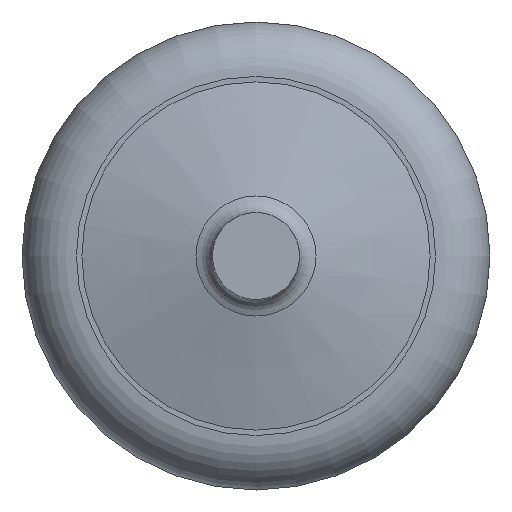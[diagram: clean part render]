
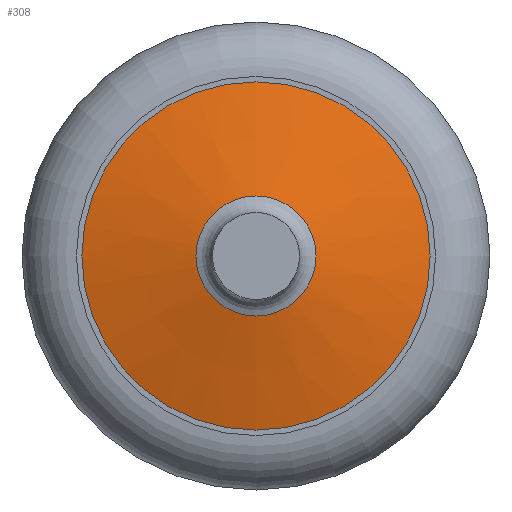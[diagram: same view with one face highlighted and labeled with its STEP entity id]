
A CAD part, left-side view. The second image highlights one B-rep face of the part: STEP entity #308.
In plain terms, the highlighted conical face has half-angle 75.964 degrees and reference radius 1 mm.
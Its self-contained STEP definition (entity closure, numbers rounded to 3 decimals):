
#14=CONICAL_SURFACE('',#349,1.,75.964);
#38=FACE_BOUND('',#96,.T.);
#63=FACE_OUTER_BOUND('',#95,.T.);
#95=EDGE_LOOP('',(#225));
#96=EDGE_LOOP('',(#226));
#142=CIRCLE('',#348,0.551);
#143=CIRCLE('',#350,1.6);
#168=VERTEX_POINT('',#515);
#169=VERTEX_POINT('',#518);
#194=EDGE_CURVE('',#168,#168,#142,.T.);
#195=EDGE_CURVE('',#169,#169,#143,.T.);
#225=ORIENTED_EDGE('',*,*,#195,.T.);
#226=ORIENTED_EDGE('',*,*,#194,.F.);
#308=ADVANCED_FACE('',(#63,#38),#14,.T.);
#348=AXIS2_PLACEMENT_3D('',#516,#413,#414);
#349=AXIS2_PLACEMENT_3D('',#517,#415,#416);
#350=AXIS2_PLACEMENT_3D('',#519,#417,#418);
#413=DIRECTION('center_axis',(-1.,0.,0.));
#414=DIRECTION('ref_axis',(0.,0.,
-1.));
#415=DIRECTION('center_axis',(1.,0.,0.));
#416=DIRECTION('ref_axis',(0.,0.,-1.));
#417=DIRECTION('center_axis',(-1.,0.,0.));
#418=DIRECTION('ref_axis',(0.,0.,-1.));
#515=CARTESIAN_POINT('',(-5.762,0.,0.551));
#516=CARTESIAN_POINT('Origin',(-5.762,0.,0.));
#517=CARTESIAN_POINT('Origin',(-5.65,0.,0.));
#518=CARTESIAN_POINT('',(-5.5,0.,1.6));
#519=CARTESIAN_POINT('Origin',(-5.5,0.,0.));
